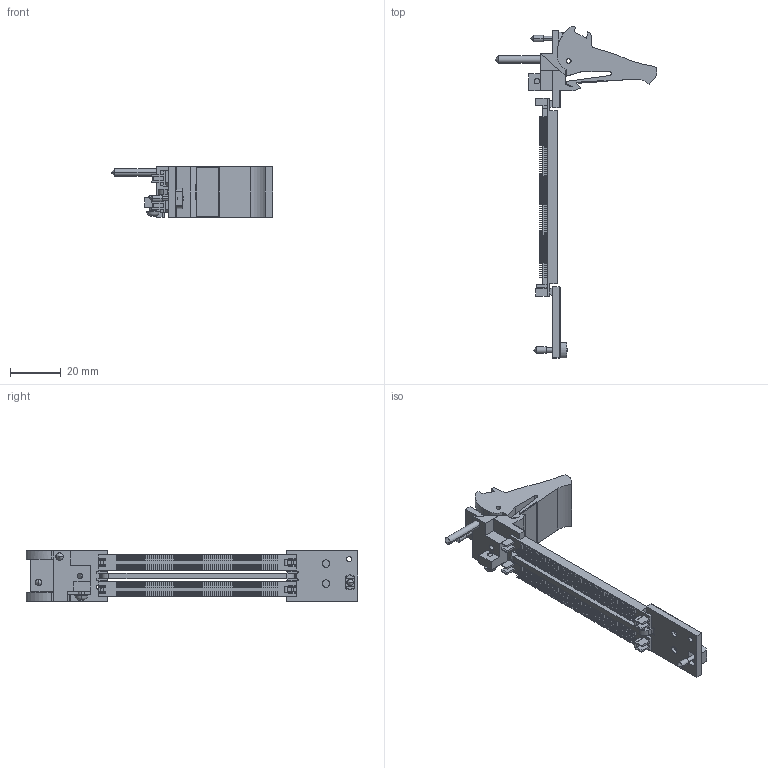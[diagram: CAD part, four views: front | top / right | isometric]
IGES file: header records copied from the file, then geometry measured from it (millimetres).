
Start section:  PTC IGES file: cu_pxi-2532.igs
Global section: file name: cu_pxi-2532.igs; native system: Pro/ENGINEER by Parametric Technology Corporation; preprocessor: 2006080; author: jjorden; organization: Unknown; date: 090901.140445; units: inch
Bounding box: 63.53 x 130.51 x 20.02 mm (x, y, z)
Surface area: 16097.6 mm2 (no closed solid volume)
Topology: 0 solids, 0 shells, 2708 faces, 13962 edges, 13954 vertices
Faces by surface type: bspline 2595, revolution 113
